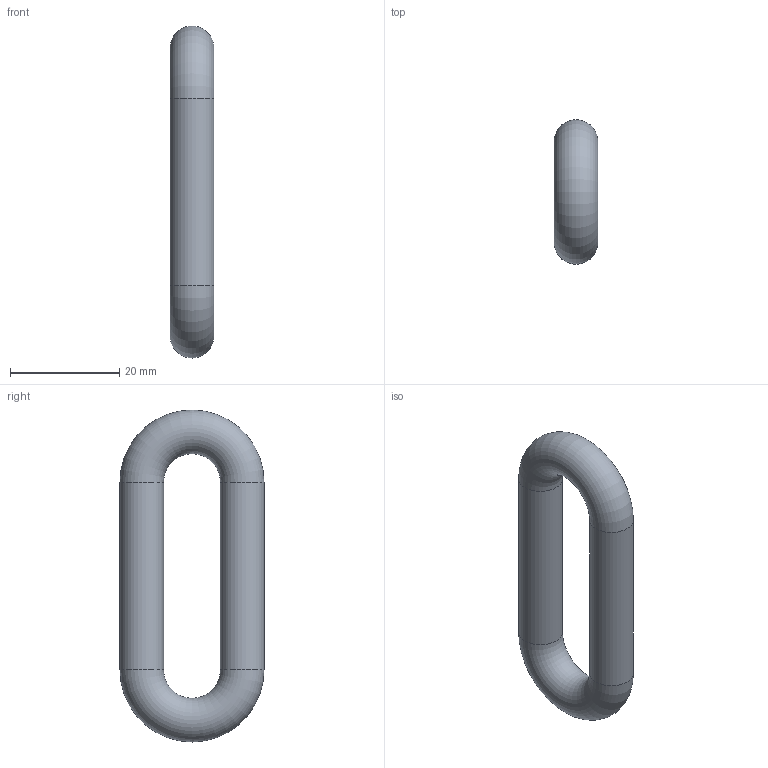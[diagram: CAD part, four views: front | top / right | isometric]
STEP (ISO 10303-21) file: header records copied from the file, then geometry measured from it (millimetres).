
FILE_DESCRIPTION(('Open CASCADE Model'),'2;1');
FILE_NAME('Open CASCADE Shape Model','2026-10-20T13:19:55',('Author'),( 'Open CASCADE'),'Open CASCADE STEP processor 7.9','Open CASCADE 7.9' ,'Unknown');
FILE_SCHEMA(('AUTOMOTIVE_DESIGN { 1 0 10303 214 1 1 1 1 }'));
Length unit declared in the file: millimetre
Products named in the file (1): Open CASCADE STEP translator 7.9 92
Bounding box: 8 x 26.4 x 60.8 mm (x, y, z)
Volume: 6363.9 mm3; surface area: 3181.9 mm2
Topology: 1 solids, 1 shells, 4 faces, 8 edges, 4 vertices
Faces by surface type: cylinder 2, torus 2
Full cylindrical faces by diameter (mm): 8 x2
Entity records: 224 total; most frequent: DIRECTION 40, CARTESIAN_POINT 33, LINE 18, VECTOR 18, ORIENTED_EDGE 16, PCURVE 16, DEFINITIONAL_REPRESENTATION 16, AXIS2_PLACEMENT_3D 11
